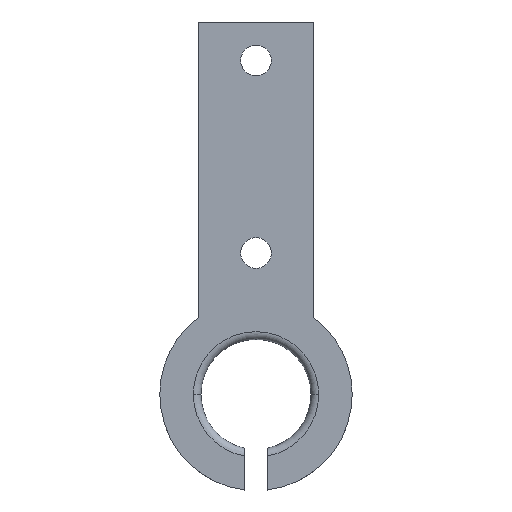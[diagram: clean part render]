
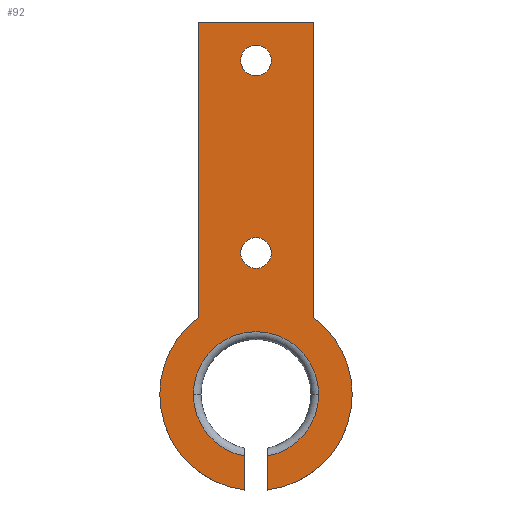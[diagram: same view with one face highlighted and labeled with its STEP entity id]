
A CAD part, top view. The second image highlights one B-rep face of the part: STEP entity #92.
In plain terms, the highlighted planar face has unit normal (0, 0, 1).
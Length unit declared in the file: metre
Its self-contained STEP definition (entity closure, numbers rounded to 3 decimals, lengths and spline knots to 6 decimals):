
#92=ADVANCED_FACE('',(#134,#135,#136),#137,.T.);
#134=FACE_OUTER_BOUND('',#186,.T.);
#135=FACE_BOUND('',#187,.T.);
#136=FACE_BOUND('',#188,.T.);
#137=PLANE('',#189);
#186=EDGE_LOOP('',(#327,#328,#329,#330,#331,#332,#333,#334,#335,#336,#337,#338));
#187=EDGE_LOOP('',(#339,#340));
#188=EDGE_LOOP('',(#341,#342));
#189=AXIS2_PLACEMENT_3D('',#343,#344,#345);
#327=ORIENTED_EDGE('',*,*,#442,.F.);
#328=ORIENTED_EDGE('',*,*,#445,.F.);
#329=ORIENTED_EDGE('',*,*,#448,.F.);
#330=ORIENTED_EDGE('',*,*,#411,.F.);
#331=ORIENTED_EDGE('',*,*,#450,.F.);
#332=ORIENTED_EDGE('',*,*,#451,.F.);
#333=ORIENTED_EDGE('',*,*,#452,.F.);
#334=ORIENTED_EDGE('',*,*,#413,.F.);
#335=ORIENTED_EDGE('',*,*,#447,.F.);
#336=ORIENTED_EDGE('',*,*,#438,.F.);
#337=ORIENTED_EDGE('',*,*,#417,.F.);
#338=ORIENTED_EDGE('',*,*,#421,.F.);
#339=ORIENTED_EDGE('',*,*,#453,.F.);
#340=ORIENTED_EDGE('',*,*,#401,.F.);
#341=ORIENTED_EDGE('',*,*,#454,.F.);
#342=ORIENTED_EDGE('',*,*,#405,.F.);
#343=CARTESIAN_POINT('',(0.0,0.0,0.005));
#344=DIRECTION('',(0.0,0.0,1.0));
#345=DIRECTION('',(1.0,0.0,0.0));
#401=EDGE_CURVE('',#462,#465,#466,.T.);
#405=EDGE_CURVE('',#470,#473,#474,.T.);
#411=EDGE_CURVE('',#483,#479,#485,.T.);
#413=EDGE_CURVE('',#486,#489,#490,.T.);
#417=EDGE_CURVE('',#495,#497,#498,.T.);
#421=EDGE_CURVE('',#502,#495,#505,.T.);
#438=EDGE_CURVE('',#497,#531,#532,.T.);
#442=EDGE_CURVE('',#536,#502,#538,.T.);
#445=EDGE_CURVE('',#541,#536,#543,.T.);
#447=EDGE_CURVE('',#531,#486,#545,.T.);
#448=EDGE_CURVE('',#479,#541,#546,.T.);
#450=EDGE_CURVE('',#548,#483,#549,.T.);
#451=EDGE_CURVE('',#550,#548,#551,.T.);
#452=EDGE_CURVE('',#489,#550,#552,.T.);
#453=EDGE_CURVE('',#465,#462,#553,.T.);
#454=EDGE_CURVE('',#473,#470,#554,.T.);
#462=VERTEX_POINT('',#564);
#465=VERTEX_POINT('',#568);
#466=CIRCLE('',#569,0.002);
#470=VERTEX_POINT('',#574);
#473=VERTEX_POINT('',#578);
#474=CIRCLE('',#579,0.002);
#479=VERTEX_POINT('',#585);
#483=VERTEX_POINT('',#590);
#485=CIRCLE('',#593,0.0125);
#486=VERTEX_POINT('',#594);
#489=VERTEX_POINT('',#598);
#490=CIRCLE('',#599,0.0125);
#495=VERTEX_POINT('',#605);
#497=VERTEX_POINT('',#607);
#498=CIRCLE('',#608,0.00815);
#502=VERTEX_POINT('',#633);
#505=CIRCLE('',#636,0.00815);
#531=VERTEX_POINT('',#708);
#532=LINE('',#709,#710);
#536=VERTEX_POINT('',#716);
#538=CIRCLE('',#739,0.00815);
#541=VERTEX_POINT('',#743);
#543=LINE('',#746,#747);
#545=CIRCLE('',#749,0.0125);
#546=CIRCLE('',#750,0.0125);
#548=VERTEX_POINT('',#752);
#549=LINE('',#753,#754);
#550=VERTEX_POINT('',#755);
#551=LINE('',#756,#757);
#552=LINE('',#758,#759);
#553=CIRCLE('',#760,0.002);
#554=CIRCLE('',#761,0.002);
#564=CARTESIAN_POINT('',(0.0055,-0.005,0.005));
#568=CARTESIAN_POINT('',(0.0095,-0.005,0.005));
#569=AXIS2_PLACEMENT_3D('',#777,#778,#779);
#574=CARTESIAN_POINT('',(0.0055,-0.03,0.005));
#578=CARTESIAN_POINT('',(0.0095,-0.03,0.005));
#579=AXIS2_PLACEMENT_3D('',#785,#786,#787);
#585=CARTESIAN_POINT('',(0.02,-0.04838,0.005));
#590=CARTESIAN_POINT('',(0.015,-0.03838,0.005));
#593=AXIS2_PLACEMENT_3D('',#797,#798,#799);
#594=CARTESIAN_POINT('',(-0.005,-0.04838,0.005));
#598=CARTESIAN_POINT('',(0.0,-0.03838,0.005));
#599=AXIS2_PLACEMENT_3D('',#801,#802,#803);
#605=CARTESIAN_POINT('',(-0.00065,-0.04838,0.005));
#607=CARTESIAN_POINT('',(0.006,-0.056391,0.005));
#608=AXIS2_PLACEMENT_3D('',#811,#812,#813);
#633=CARTESIAN_POINT('',(0.01565,-0.04838,0.005));
#636=AXIS2_PLACEMENT_3D('',#820,#821,#822);
#708=CARTESIAN_POINT('',(0.006,-0.06079,0.005));
#709=CARTESIAN_POINT('',(0.006,-0.05244,0.005));
#710=VECTOR('',#857,1.0);
#716=CARTESIAN_POINT('',(0.009,-0.056391,0.005));
#739=AXIS2_PLACEMENT_3D('',#860,#861,#862);
#743=CARTESIAN_POINT('',(0.009,-0.06079,0.005));
#746=CARTESIAN_POINT('',(0.009,-0.06088,0.005));
#747=VECTOR('',#865,1.0);
#749=AXIS2_PLACEMENT_3D('',#869,#870,#871);
#750=AXIS2_PLACEMENT_3D('',#872,#873,#874);
#752=CARTESIAN_POINT('',(0.015,0.0,0.005));
#753=CARTESIAN_POINT('',(0.015,0.0,0.005));
#754=VECTOR('',#878,1.0);
#755=CARTESIAN_POINT('',(0.0,0.0,0.005));
#756=CARTESIAN_POINT('',(0.0,0.0,0.005));
#757=VECTOR('',#879,1.0);
#758=CARTESIAN_POINT('',(0.0,-0.03,0.005));
#759=VECTOR('',#880,1.0);
#760=AXIS2_PLACEMENT_3D('',#881,#882,#883);
#761=AXIS2_PLACEMENT_3D('',#884,#885,#886);
#777=CARTESIAN_POINT('',(0.0075,-0.005,0.005));
#778=DIRECTION('',(0.0,0.0,1.0));
#779=DIRECTION('',(1.0,0.0,-0.0));
#785=CARTESIAN_POINT('',(0.0075,-0.03,0.005));
#786=DIRECTION('',(0.0,0.0,1.0));
#787=DIRECTION('',(1.0,0.0,0.0));
#797=CARTESIAN_POINT('',(0.0075,-0.04838,0.005));
#798=DIRECTION('',(0.0,0.0,-1.0));
#799=DIRECTION('',(1.0,0.0,0.0));
#801=CARTESIAN_POINT('',(0.0075,-0.04838,0.005));
#802=DIRECTION('',(0.0,0.0,-1.0));
#803=DIRECTION('',(1.0,0.0,0.0));
#811=CARTESIAN_POINT('',(0.0075,-0.04838,0.005));
#812=DIRECTION('',(0.0,0.0,1.0));
#813=DIRECTION('',(0.,1.0,0.0));
#820=CARTESIAN_POINT('',(0.0075,-0.04838,0.005));
#821=DIRECTION('',(0.0,0.0,1.0));
#822=DIRECTION('',(0.,1.0,0.0));
#857=DIRECTION('',(0.,-1.0,0.0));
#860=CARTESIAN_POINT('',(0.0075,-0.04838,0.005));
#861=DIRECTION('',(0.0,0.0,1.0));
#862=DIRECTION('',(0.,1.0,0.0));
#865=DIRECTION('',(0.0,1.0,0.0));
#869=CARTESIAN_POINT('',(0.0075,-0.04838,0.005));
#870=DIRECTION('',(0.0,0.0,-1.0));
#871=DIRECTION('',(1.0,0.0,0.0));
#872=CARTESIAN_POINT('',(0.0075,-0.04838,0.005));
#873=DIRECTION('',(0.0,0.0,-1.0));
#874=DIRECTION('',(1.0,0.0,0.0));
#878=DIRECTION('',(0.0,-1.0,0.0));
#879=DIRECTION('',(1.0,0.0,0.0));
#880=DIRECTION('',(0.0,1.0,0.0));
#881=CARTESIAN_POINT('',(0.0075,-0.005,0.005));
#882=DIRECTION('',(0.0,0.0,1.0));
#883=DIRECTION('',(1.0,0.0,-0.0));
#884=CARTESIAN_POINT('',(0.0075,-0.03,0.005));
#885=DIRECTION('',(0.0,0.0,1.0));
#886=DIRECTION('',(1.0,0.0,0.0));
